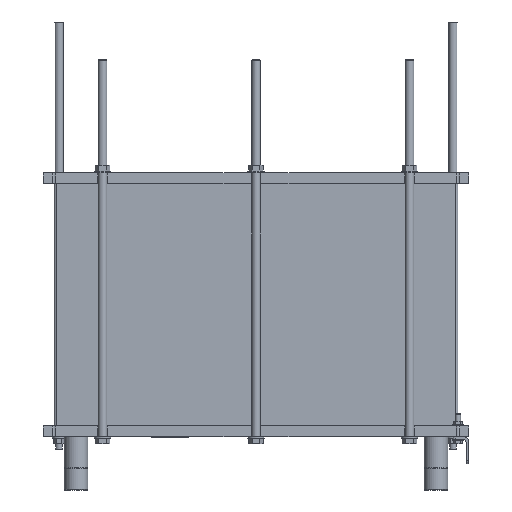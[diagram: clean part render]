
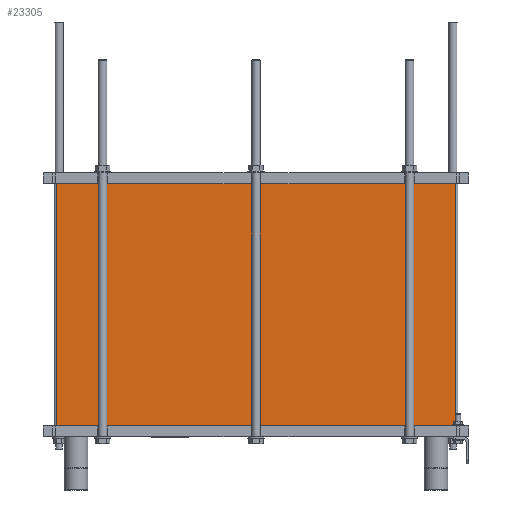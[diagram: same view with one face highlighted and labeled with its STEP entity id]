
A CAD part, left-side view. The second image highlights one B-rep face of the part: STEP entity #23305.
In plain terms, the highlighted planar face has unit normal (-1, 0, 0).
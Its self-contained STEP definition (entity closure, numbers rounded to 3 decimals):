
#15365=CARTESIAN_POINT('',(-62.5,-370.0,20.0));
#15366=VERTEX_POINT('',#15365);
#15374=CARTESIAN_POINT('',(-62.5,370.0,20.0));
#15375=VERTEX_POINT('',#15374);
#15376=CARTESIAN_POINT('',(-62.5,-370.0,20.0));
#15377=DIRECTION('',(0.0,1.0,0.0));
#15378=VECTOR('',#15377,740.0);
#15379=LINE('',#15376,#15378);
#15380=EDGE_CURVE('',#15366,#15375,#15379,.T.);
#22949=CARTESIAN_POINT('',(-62.5,370.0,470.0));
#22950=VERTEX_POINT('',#22949);
#22958=CARTESIAN_POINT('',(-62.5,-370.0,470.0));
#22959=VERTEX_POINT('',#22958);
#22960=CARTESIAN_POINT('',(-62.5,-370.0,470.0));
#22961=DIRECTION('',(0.0,1.0,0.0));
#22962=VECTOR('',#22961,740.0);
#22963=LINE('',#22960,#22962);
#22964=EDGE_CURVE('',#22959,#22950,#22963,.T.);
#23278=CARTESIAN_POINT('',(-62.5,-370.0,20.0));
#23279=DIRECTION('',(0.0,0.0,1.0));
#23280=VECTOR('',#23279,450.0);
#23281=LINE('',#23278,#23280);
#23282=EDGE_CURVE('',#15366,#22959,#23281,.T.);
#23289=CARTESIAN_POINT('',(-62.5,-370.0,20.0));
#23290=DIRECTION('',(-1.0,0.0,0.0));
#23291=DIRECTION('',(0.0,0.0,1.0));
#23292=AXIS2_PLACEMENT_3D('',#23289,#23290,#23291);
#23293=PLANE('',#23292);
#23294=ORIENTED_EDGE('',*,*,#22964,.T.);
#23295=CARTESIAN_POINT('',(-62.5,370.0,20.0));
#23296=DIRECTION('',(0.0,0.0,1.0));
#23297=VECTOR('',#23296,450.0);
#23298=LINE('',#23295,#23297);
#23299=EDGE_CURVE('',#15375,#22950,#23298,.T.);
#23300=ORIENTED_EDGE('',*,*,#23299,.F.);
#23301=ORIENTED_EDGE('',*,*,#15380,.F.);
#23302=ORIENTED_EDGE('',*,*,#23282,.T.);
#23303=EDGE_LOOP('',(#23294,#23300,#23301,#23302));
#23304=FACE_OUTER_BOUND('',#23303,.T.);
#23305=ADVANCED_FACE('',(#23304),#23293,.T.);
